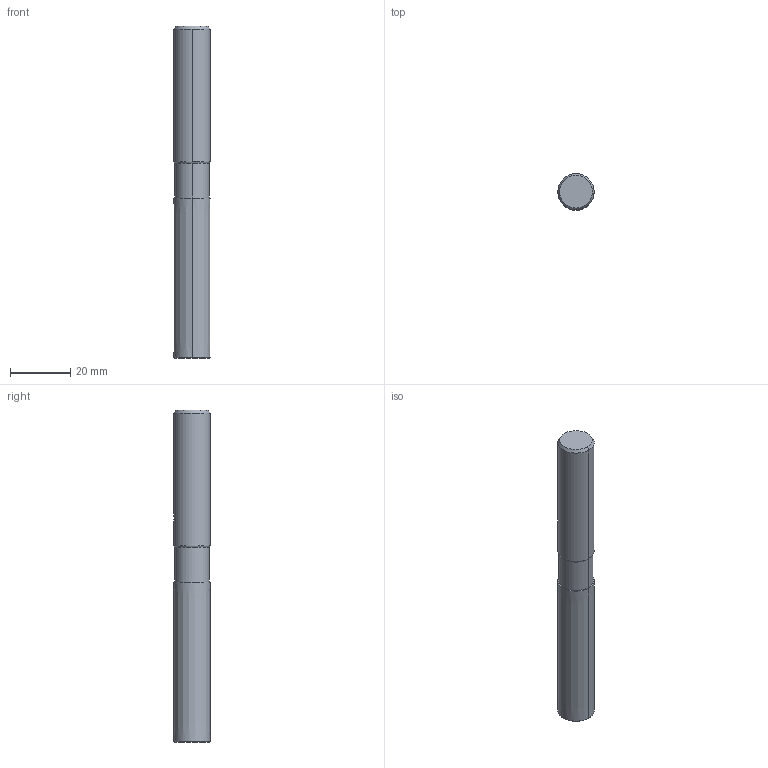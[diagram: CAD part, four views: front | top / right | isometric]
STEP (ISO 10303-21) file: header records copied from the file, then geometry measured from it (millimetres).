
FILE_DESCRIPTION(('no description'),'unknown implementation level');
FILE_NAME('solidKSWe1Q3y1Cp3re0TI4dMY4nx0JI_1.STP',' ',('CIMSOURCE GmbH'),('CADClick - KiM GmbH - www.kimweb.de'),'unknown preprocess','ACIS','unknown authorization');
FILE_SCHEMA(('automotive_design'));
Length unit declared in the file: millimetre
Products named in the file (2): NOCUT; CUT
Bounding box: 12 x 12 x 110 mm (x, y, z)
Volume: 12319.8 mm3; surface area: 6489.7 mm2
Topology: 2 solids, 2 shells, 43 faces, 97 edges, 60 vertices
Faces by surface type: cone 16, cylinder 16, plane 11
Entity records: 2648 total; most frequent: CARTESIAN_POINT 486, DIRECTION 221, STYLED_ITEM 202, PRESENTATION_STYLE_ASSIGNMENT 202, COLOUR_RGB 202, ORIENTED_EDGE 194, EDGE_CURVE 97, CURVE_STYLE 97
